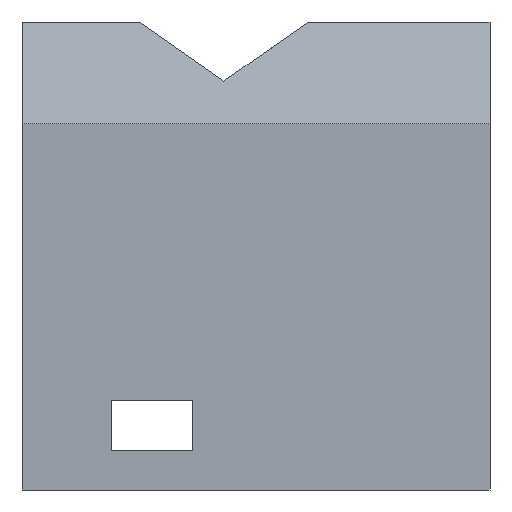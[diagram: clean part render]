
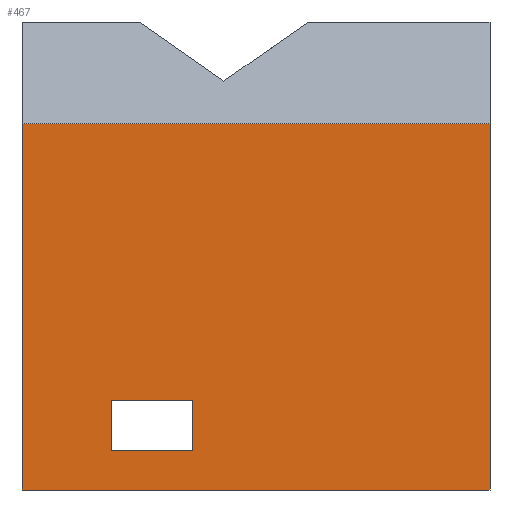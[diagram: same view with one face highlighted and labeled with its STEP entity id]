
A CAD part, front view. The second image highlights one B-rep face of the part: STEP entity #467.
In plain terms, the highlighted planar face has unit normal (0, -1, 0).
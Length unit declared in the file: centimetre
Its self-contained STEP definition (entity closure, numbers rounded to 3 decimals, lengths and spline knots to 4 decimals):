
#11 = EDGE_LOOP ( 'NONE', ( #750, #35, #327, #1290 ) ) ;
#35 = ORIENTED_EDGE ( 'NONE', *, *, #1495, .T. ) ;
#52 = EDGE_CURVE ( 'NONE', #309, #1210, #545, .T. ) ;
#81 = EDGE_CURVE ( 'NONE', #408, #1821, #1242, .T. ) ;
#82 = CARTESIAN_POINT ( 'NONE',  ( 191.6173, 0., 190.9092 ) ) ;
#138 = EDGE_CURVE ( 'NONE', #319, #1210, #479, .T. ) ;
#191 = DIRECTION ( 'NONE',  ( 0., 0., -1. ) ) ;
#241 = CARTESIAN_POINT ( 'NONE',  ( 364.7449, 0., 190.9092 ) ) ;
#290 = FACE_OUTER_BOUND ( 'NONE', #1579, .T. ) ;
#308 = VECTOR ( 'NONE', #385, 100. ) ;
#309 = VERTEX_POINT ( 'NONE', #1337 ) ;
#319 = VERTEX_POINT ( 'NONE', #523 ) ;
#327 = ORIENTED_EDGE ( 'NONE', *, *, #1469, .T. ) ;
#343 = LINE ( 'NONE', #1522, #925 ) ;
#351 = DIRECTION ( 'NONE',  ( 1., 0., 0. ) ) ;
#383 = VERTEX_POINT ( 'NONE', #82 ) ;
#385 = DIRECTION ( 'NONE',  ( 0., 0., 1. ) ) ;
#393 = VECTOR ( 'NONE', #995, 100. ) ;
#408 = VERTEX_POINT ( 'NONE', #241 ) ;
#426 = LINE ( 'NONE', #1814, #393 ) ;
#459 = VECTOR ( 'NONE', #1280, 100. ) ;
#467 = ADVANCED_FACE ( 'NONE', ( #1134, #290 ), #810, .F. ) ;
#471 = DIRECTION ( 'NONE',  ( 1., 0., 0. ) ) ;
#479 = LINE ( 'NONE', #1732, #889 ) ;
#489 = VERTEX_POINT ( 'NONE', #1686 ) ;
#508 = DIRECTION ( 'NONE',  ( -1., 0., 0. ) ) ;
#512 = VERTEX_POINT ( 'NONE', #822 ) ;
#523 = CARTESIAN_POINT ( 'NONE',  ( 0., 0., 0. ) ) ;
#545 = LINE ( 'NONE', #1698, #459 ) ;
#558 = CARTESIAN_POINT ( 'NONE',  ( 364.7449, 0., 83.5819 ) ) ;
#560 = LINE ( 'NONE', #839, #308 ) ;
#604 = LINE ( 'NONE', #1459, #975 ) ;
#750 = ORIENTED_EDGE ( 'NONE', *, *, #1573, .T. ) ;
#810 = PLANE ( 'NONE',  #1285 ) ;
#822 = CARTESIAN_POINT ( 'NONE',  ( 0., 0., 782.1494 ) ) ;
#832 = DIRECTION ( 'NONE',  ( 0., 0., 1. ) ) ;
#839 = CARTESIAN_POINT ( 'NONE',  ( 191.6173, 0., 83.5819 ) ) ;
#889 = VECTOR ( 'NONE', #471, 100. ) ;
#925 = VECTOR ( 'NONE', #508, 100. ) ;
#975 = VECTOR ( 'NONE', #191, 100. ) ;
#984 = DIRECTION ( 'NONE',  ( 0., 1., 0. ) ) ;
#995 = DIRECTION ( 'NONE',  ( -1., 0., 0. ) ) ;
#1050 = ORIENTED_EDGE ( 'NONE', *, *, #1829, .T. ) ;
#1063 = LINE ( 'NONE', #1631, #1623 ) ;
#1128 = CARTESIAN_POINT ( 'NONE',  ( 1000., 0., 0. ) ) ;
#1134 = FACE_BOUND ( 'NONE', #11, .T. ) ;
#1206 = ORIENTED_EDGE ( 'NONE', *, *, #1413, .T. ) ;
#1210 = VERTEX_POINT ( 'NONE', #1128 ) ;
#1242 = LINE ( 'NONE', #558, #1593 ) ;
#1280 = DIRECTION ( 'NONE',  ( 0., 0., -1. ) ) ;
#1285 = AXIS2_PLACEMENT_3D ( 'NONE', #1421, #984, #832 ) ;
#1290 = ORIENTED_EDGE ( 'NONE', *, *, #81, .T. ) ;
#1337 = CARTESIAN_POINT ( 'NONE',  ( 1000., 0., 782.1494 ) ) ;
#1413 = EDGE_CURVE ( 'NONE', #309, #512, #343, .T. ) ;
#1421 = CARTESIAN_POINT ( 'NONE',  ( 0., 0., 1000. ) ) ;
#1444 = ORIENTED_EDGE ( 'NONE', *, *, #138, .T. ) ;
#1459 = CARTESIAN_POINT ( 'NONE',  ( 0., 0., 1000. ) ) ;
#1469 = EDGE_CURVE ( 'NONE', #383, #408, #1063, .T. ) ;
#1480 = CARTESIAN_POINT ( 'NONE',  ( 364.7449, 0., 83.5819 ) ) ;
#1495 = EDGE_CURVE ( 'NONE', #489, #383, #560, .T. ) ;
#1522 = CARTESIAN_POINT ( 'NONE',  ( 0., 0., 782.1494 ) ) ;
#1530 = ORIENTED_EDGE ( 'NONE', *, *, #52, .F. ) ;
#1573 = EDGE_CURVE ( 'NONE', #1821, #489, #426, .T. ) ;
#1579 = EDGE_LOOP ( 'NONE', ( #1530, #1206, #1050, #1444 ) ) ;
#1593 = VECTOR ( 'NONE', #1707, 100. ) ;
#1623 = VECTOR ( 'NONE', #351, 100. ) ;
#1631 = CARTESIAN_POINT ( 'NONE',  ( 191.6173, 0., 190.9092 ) ) ;
#1686 = CARTESIAN_POINT ( 'NONE',  ( 191.6173, 0., 83.5819 ) ) ;
#1698 = CARTESIAN_POINT ( 'NONE',  ( 1000., 0., 1000. ) ) ;
#1707 = DIRECTION ( 'NONE',  ( 0., 0., -1. ) ) ;
#1732 = CARTESIAN_POINT ( 'NONE',  ( 0., 0., 0. ) ) ;
#1814 = CARTESIAN_POINT ( 'NONE',  ( 191.6173, 0., 83.5819 ) ) ;
#1821 = VERTEX_POINT ( 'NONE', #1480 ) ;
#1829 = EDGE_CURVE ( 'NONE', #512, #319, #604, .T. ) ;
